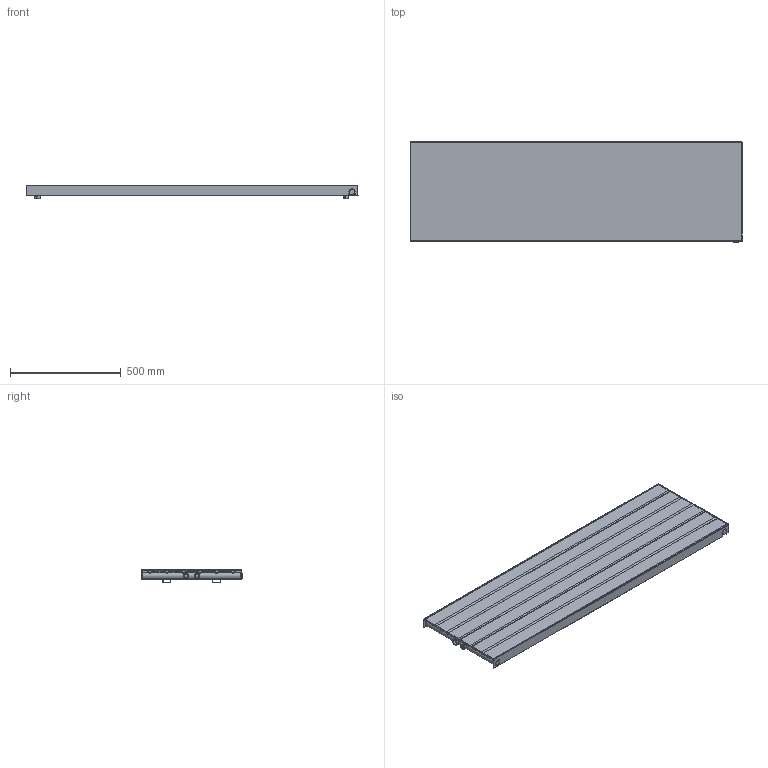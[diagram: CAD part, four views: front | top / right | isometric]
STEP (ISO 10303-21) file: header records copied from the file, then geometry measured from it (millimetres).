
FILE_DESCRIPTION(/* description */ (''),/* implementation_level */ '2;1');
FILE_NAME(/* name */ 'C:\Grzejniki\13DLUXRAD\pokojowe\NIAGARA\to\NIAGARA z osłoną w kolorze standardowym 1500x450.iam.stp',/* time_stamp */ '2016-06-28T17:34:09+02:00',/* author */ ('m.szydziak'),/* organization */ (''),/* preprocessor_version */ 'ST-DEVELOPER v16.5',/* originating_system */ 'Autodesk Inventor 2017',/* authorisation */ '');
FILE_SCHEMA (('AUTOMOTIVE_DESIGN { 1 0 10303 214 3 1 1 }'));
Length unit declared in the file: millimetre
Products named in the file (12): NIAGARA z osłoną w kolorze standa
rdowym 1500x450; NIAGARA 1500x450 osłona; NIAGARA 1500x445 ZDC; fi30x1,5x445; 70x8x1,2x1504; michałek; ucho duze; ucho duze 2; poprzeczka 395; ZDC dzwonki; dzwonek G0,5inch; korek
Assembly tree (33 placements, depth 4):
  NIAGARA z osłoną w kolorze standa
rdowym 1500x450
    NIAGARA 1500x450 osłona
    NIAGARA 1500x445 ZDC
      fi30x1,5x445  x2
      70x8x1,2x1504  x6
      michałek  x12
      ucho duze  x2
      ucho duze 2  x2
      poprzeczka 395  x3
      ZDC dzwonki
        dzwonek G0,5inch  x2
      korek
Bounding box: 1502 x 453.5 x 63.3 mm (x, y, z)
Volume: 2461111.5 mm3; surface area: 4560856.5 mm2
Topology: 31 solids, 31 shells, 453 faces, 1023 edges, 632 vertices
Faces by surface type: plane 227, cylinder 174, sphere 48, cone 2, bspline 2
Full cylindrical faces by diameter (mm): 8 x12, 9 x12, 10 x24, 11.5 x12, 16 x2, 18.5 x2, 18.631 x6, 22.9 x2, 24 x1, 25.3 x2, 27 x2, 30 x2
Entity records: 5742 total; most frequent: CARTESIAN_POINT 1346, DIRECTION 902, ORIENTED_EDGE 758, EDGE_CURVE 379, AXIS2_PLACEMENT_3D 330, VERTEX_POINT 246, LINE 242, VECTOR 242
